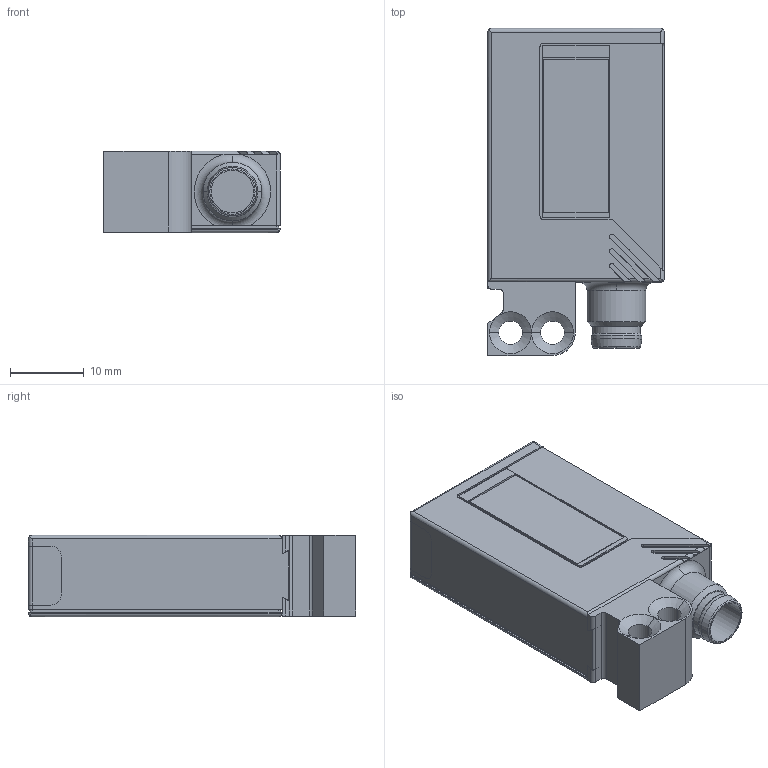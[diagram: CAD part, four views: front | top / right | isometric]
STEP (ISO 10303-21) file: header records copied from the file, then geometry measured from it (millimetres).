
FILE_DESCRIPTION( ( '' ), '1' );
FILE_NAME( '//partserver001.servicenet/client_exchange/iodir/jobs/output/wkb12417265_no0/STEP/oj5056_2_03.stp', '2008-10-07T13:35:18', ( '' ), ( '' ), ' ', ' ', ' ' );
FILE_SCHEMA( ( 'CONFIG_CONTROL_DESIGN' ) );
Length unit declared in the file: millimetre
Products named in the file (3): 1; 2; 3
Bounding box: 24 x 44.5 x 11.1 mm (x, y, z)
Volume: 10196 mm3; surface area: 4740.2 mm2
Topology: 3 solids, 3 shells, 173 faces, 451 edges, 292 vertices
Faces by surface type: plane 93, cylinder 58, cone 18, torus 4
Entity records: 5513 total; most frequent: CARTESIAN_POINT 999, DIRECTION 947, ORIENTED_EDGE 902, EDGE_CURVE 451, AXIS2_PLACEMENT_3D 328, VERTEX_POINT 292, LINE 291, VECTOR 291
